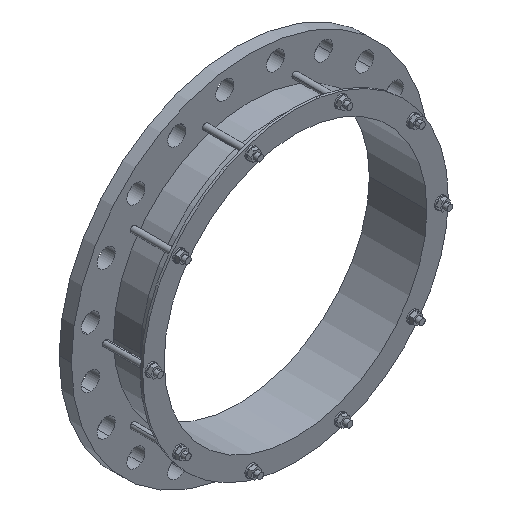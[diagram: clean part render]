
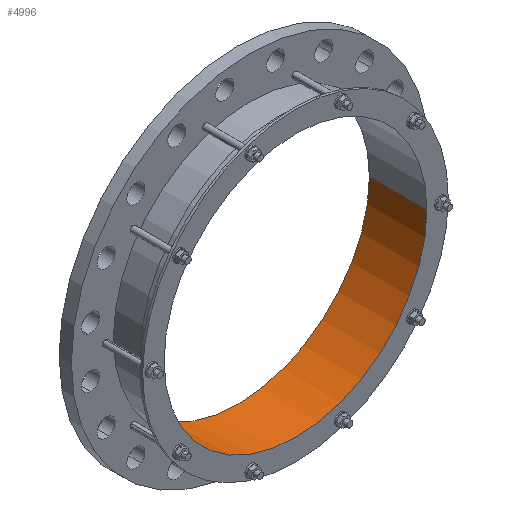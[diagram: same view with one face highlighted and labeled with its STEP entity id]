
A CAD part, isometric view. The second image highlights one B-rep face of the part: STEP entity #4996.
In plain terms, the highlighted cylindrical face has radius 268.25 mm (diameter 536.5 mm), a partial arc.
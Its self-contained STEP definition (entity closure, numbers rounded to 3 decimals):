
#7=CARTESIAN_POINT('',(0.,25.,0.));
#8=DIRECTION('',(0.,1.,0.));
#9=DIRECTION('',(1.,0.,0.));
#10=AXIS2_PLACEMENT_3D('',#7,#8,#9);
#1733=CARTESIAN_POINT('',(0.,-92.452,0.));
#1734=DIRECTION('',(0.,1.,0.));
#1735=DIRECTION('',(1.,0.,0.));
#1736=AXIS2_PLACEMENT_3D('',#1733,#1734,#1735);
#1738=DIRECTION('',(0.,1.,0.));
#1739=VECTOR('',#1738,117.452);
#1740=CARTESIAN_POINT('',(268.25,-92.452,0.));
#1741=LINE('',#1740,#1739);
#1742=DIRECTION('',(0.,1.,0.));
#1743=VECTOR('',#1742,117.452);
#1744=CARTESIAN_POINT('',(-268.25,-92.452,0.));
#1745=LINE('',#1744,#1743);
#3268=CARTESIAN_POINT('',(268.25,-92.452,0.));
#3269=CARTESIAN_POINT('',(268.25,25.,0.));
#3270=VERTEX_POINT('',#3268);
#3271=VERTEX_POINT('',#3269);
#3276=CARTESIAN_POINT('',(-268.25,-92.452,0.));
#3277=CARTESIAN_POINT('',(-268.25,25.,0.));
#3278=VERTEX_POINT('',#3276);
#3279=VERTEX_POINT('',#3277);
#4983=CARTESIAN_POINT('',(0.,-98.325,0.));
#4984=DIRECTION('',(0.,1.,0.));
#4985=DIRECTION('',(-1.,0.,0.));
#4986=AXIS2_PLACEMENT_3D('',#4983,#4984,#4985);
#4987=CYLINDRICAL_SURFACE('',#4986,268.25);
#4989=ORIENTED_EDGE('',*,*,#4988,.F.);
#4990=ORIENTED_EDGE('',*,*,#4976,.T.);
#4992=ORIENTED_EDGE('',*,*,#4991,.T.);
#4993=ORIENTED_EDGE('',*,*,#4045,.F.);
#4994=EDGE_LOOP('',(#4989,#4990,#4992,#4993));
#4995=FACE_OUTER_BOUND('',#4994,.F.);
#4996=ADVANCED_FACE('',(#4995),#4987,.F.);
#11=CIRCLE('',#10,268.25);
#1737=CIRCLE('',#1736,268.25);
#4045=EDGE_CURVE('',#3271,#3279,#11,.T.);
#4976=EDGE_CURVE('',#3270,#3278,#1737,.T.);
#4988=EDGE_CURVE('',#3270,#3271,#1741,.T.);
#4991=EDGE_CURVE('',#3278,#3279,#1745,.T.);
